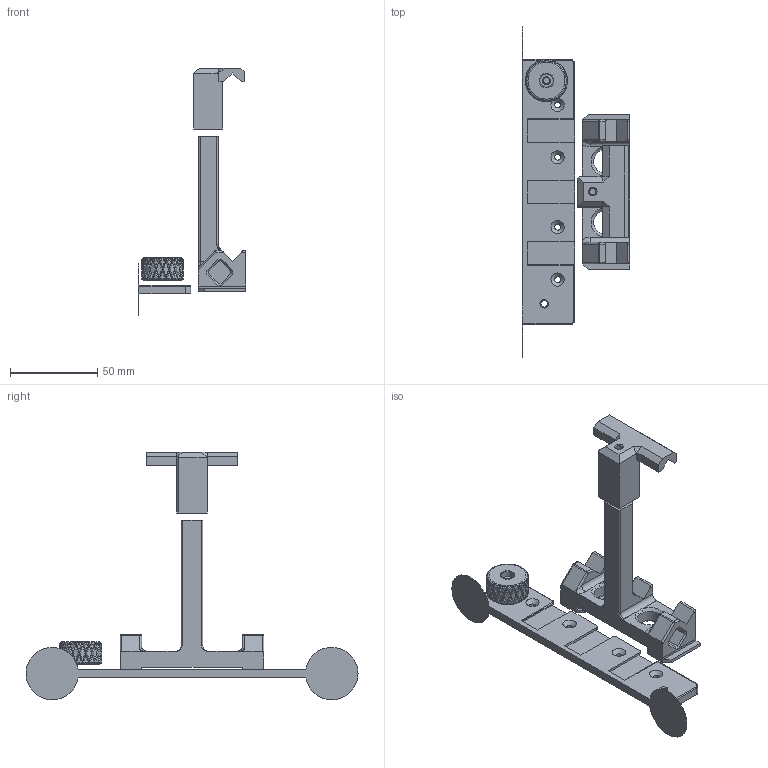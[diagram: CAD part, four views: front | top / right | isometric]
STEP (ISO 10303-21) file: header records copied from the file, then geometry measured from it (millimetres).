
FILE_DESCRIPTION(/* description */ (''),/* implementation_level */ '2;1');
FILE_NAME(/* name */ 'C:/Users/mcjor/3D Objects/6x17 Camera/6x17/v5/phone mount .stp',/* time_stamp */ '2023-02-05T03:09:40+01:00',/* author */ (''),/* organization */ (''),/* preprocessor_version */ 'ST-DEVELOPER v15.2',/* originating_system */ 'Autodesk Translator Framework v2.0.0.5431',/* authorisation */ '');
FILE_SCHEMA (('AUTOMOTIVE_DESIGN { 1 0 10303 214 3 1 1 }'));
Length unit declared in the file: centimetre
Products named in the file (1): phone mount
Bounding box: 61.4 x 190 x 141.64 mm (x, y, z)
Volume: 68059.8 mm3; surface area: 37549.3 mm2
Topology: 4 solids, 4 shells, 708 faces, 1720 edges, 1026 vertices
Faces by surface type: plane 472, cylinder 113, torus 87, cone 24, bspline 8, sphere 4
Full cylindrical faces by diameter (mm): 3.3 x4, 3.5 x1, 3.6 x1, 3.8 x2, 4.6 x2, 7.7 x1, 14 x2
Entity records: 20662 total; most frequent: CARTESIAN_POINT 5005, ORIENTED_EDGE 3362, DIRECTION 3096, EDGE_CURVE 1681, AXIS2_PLACEMENT_3D 1122, VERTEX_POINT 1021, LINE 852, VECTOR 852
